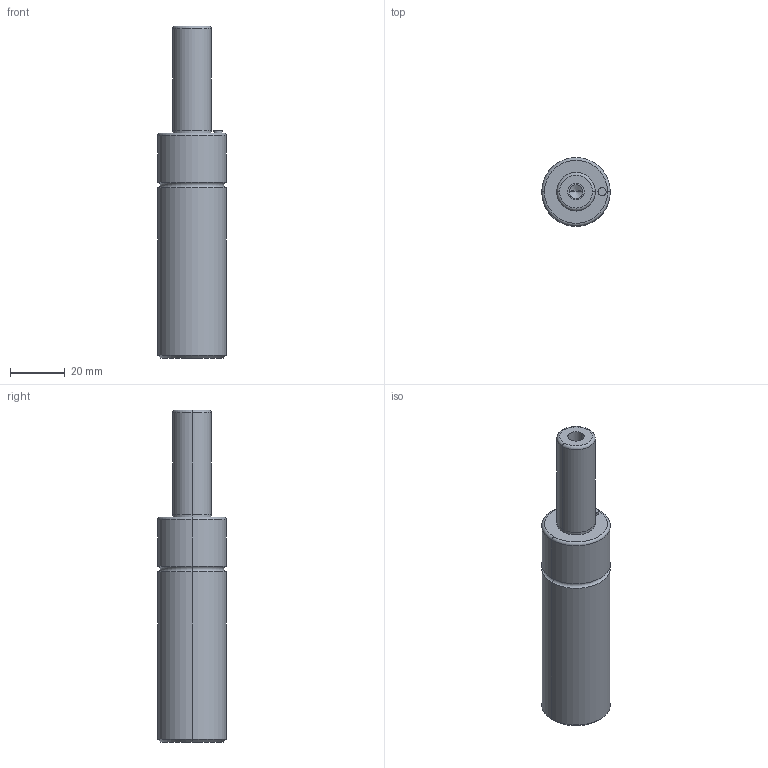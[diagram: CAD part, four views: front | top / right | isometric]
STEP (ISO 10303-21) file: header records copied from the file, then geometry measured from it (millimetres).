
FILE_DESCRIPTION(/* description */ (''),/* implementation_level */ '2;1');
FILE_NAME(/* name */ '3d_mgsa25-38_04554_r00.stp',/* time_stamp */ '2011-01-10T14:13:36+09:00',/* author */ ('MISUMI'),/* organization */ (''),/* preprocessor_version */ 'ST-DEVELOPER v11',/* originating_system */ 'UGS - NX 5.0',/* authorisation */ '');
FILE_SCHEMA (('CONFIG_CONTROL_DESIGN'));
Length unit declared in the file: millimetre
Products named in the file (1): 3d_mgsa25-38_04554_r00
Bounding box: 25 x 25 x 121 mm (x, y, z)
Volume: 45585.9 mm3; surface area: 9455.9 mm2
Topology: 1 solids, 1 shells, 36 faces, 74 edges, 42 vertices
Faces by surface type: cylinder 18, torus 6, cone 6, plane 6
Entity records: 1014 total; most frequent: DIRECTION 190, CARTESIAN_POINT 149, ORIENTED_EDGE 140, AXIS2_PLACEMENT_3D 83, EDGE_CURVE 70, CIRCLE 46, EDGE_LOOP 42, VERTEX_POINT 42
